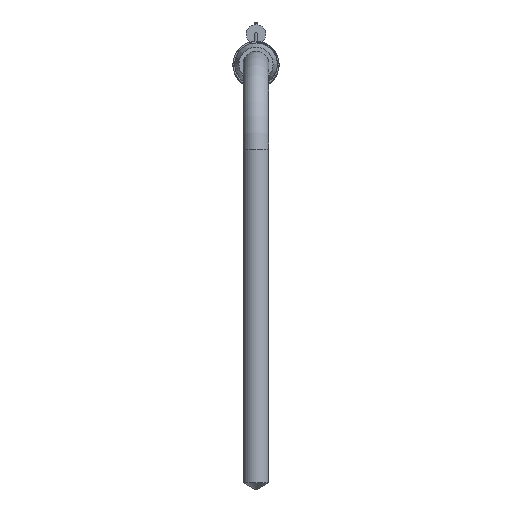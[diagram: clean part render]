
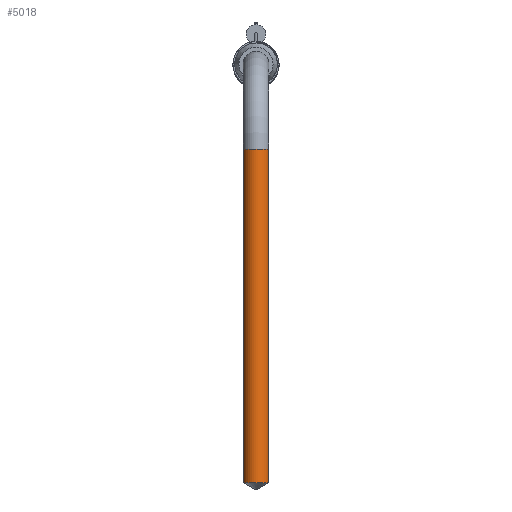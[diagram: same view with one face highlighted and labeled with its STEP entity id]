
A CAD part, top view. The second image highlights one B-rep face of the part: STEP entity #5018.
In plain terms, the highlighted cylindrical face has radius 3 mm (diameter 6 mm), a full revolution.
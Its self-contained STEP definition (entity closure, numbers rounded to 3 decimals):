
#258 = EDGE_LOOP ( 'NONE', ( #9303 ) ) ;
#594 = EDGE_LOOP ( 'NONE', ( #9700 ) ) ;
#841 = VERTEX_POINT ( 'NONE', #3997 ) ;
#1235 = DIRECTION ( 'NONE',  ( 0., -1., 0. ) ) ;
#1262 = AXIS2_PLACEMENT_3D ( 'NONE', #2970, #7468, #4418 ) ;
#1368 = CIRCLE ( 'NONE', #5984, 3. ) ;
#1394 = CARTESIAN_POINT ( 'NONE',  ( 0., -98.268, 31. ) ) ;
#1602 = CIRCLE ( 'NONE', #1262, 3. ) ;
#2065 = DIRECTION ( 'NONE',  ( 0., 1., 0. ) ) ;
#2970 = CARTESIAN_POINT ( 'NONE',  ( 0., -20., 31. ) ) ;
#2999 = DIRECTION ( 'NONE',  ( 0., 0., 1. ) ) ;
#3822 = FACE_OUTER_BOUND ( 'NONE', #258, .T. ) ;
#3997 = CARTESIAN_POINT ( 'NONE',  ( 0., -98.268, 34. ) ) ;
#4418 = DIRECTION ( 'NONE',  ( -1., 0., 0. ) ) ;
#5018 = ADVANCED_FACE ( 'NONE', ( #3822, #9998 ), #7601, .T. ) ;
#5157 = DIRECTION ( 'NONE',  ( 0., 0., 1. ) ) ;
#5211 = EDGE_CURVE ( 'NONE', #841, #841, #1368, .T. ) ;
#5984 = AXIS2_PLACEMENT_3D ( 'NONE', #1394, #2065, #2999 ) ;
#6158 = AXIS2_PLACEMENT_3D ( 'NONE', #8480, #1235, #5157 ) ;
#6173 = CARTESIAN_POINT ( 'NONE',  ( -3., -20., 31. ) ) ;
#7468 = DIRECTION ( 'NONE',  ( 0., -1., 0. ) ) ;
#7601 = CYLINDRICAL_SURFACE ( 'NONE', #6158, 3. ) ;
#8480 = CARTESIAN_POINT ( 'NONE',  ( 0., -20., 31. ) ) ;
#8669 = VERTEX_POINT ( 'NONE', #6173 ) ;
#9303 = ORIENTED_EDGE ( 'NONE', *, *, #5211, .T. ) ;
#9700 = ORIENTED_EDGE ( 'NONE', *, *, #9925, .T. ) ;
#9925 = EDGE_CURVE ( 'NONE', #8669, #8669, #1602, .T. ) ;
#9998 = FACE_OUTER_BOUND ( 'NONE', #594, .T. ) ;
